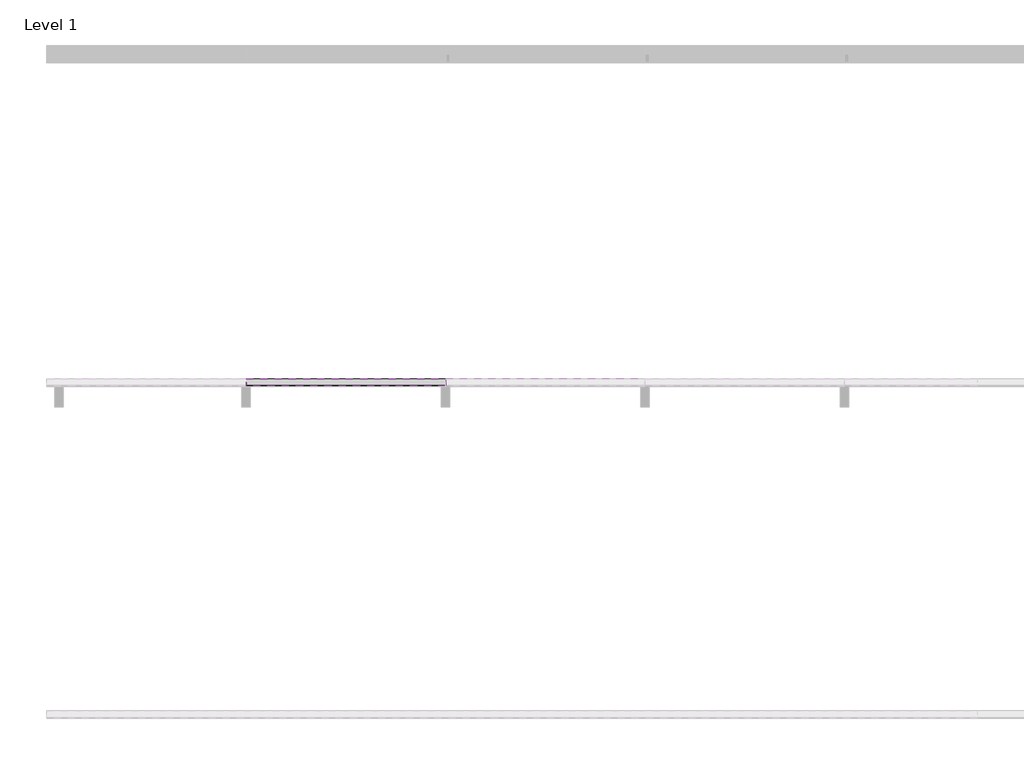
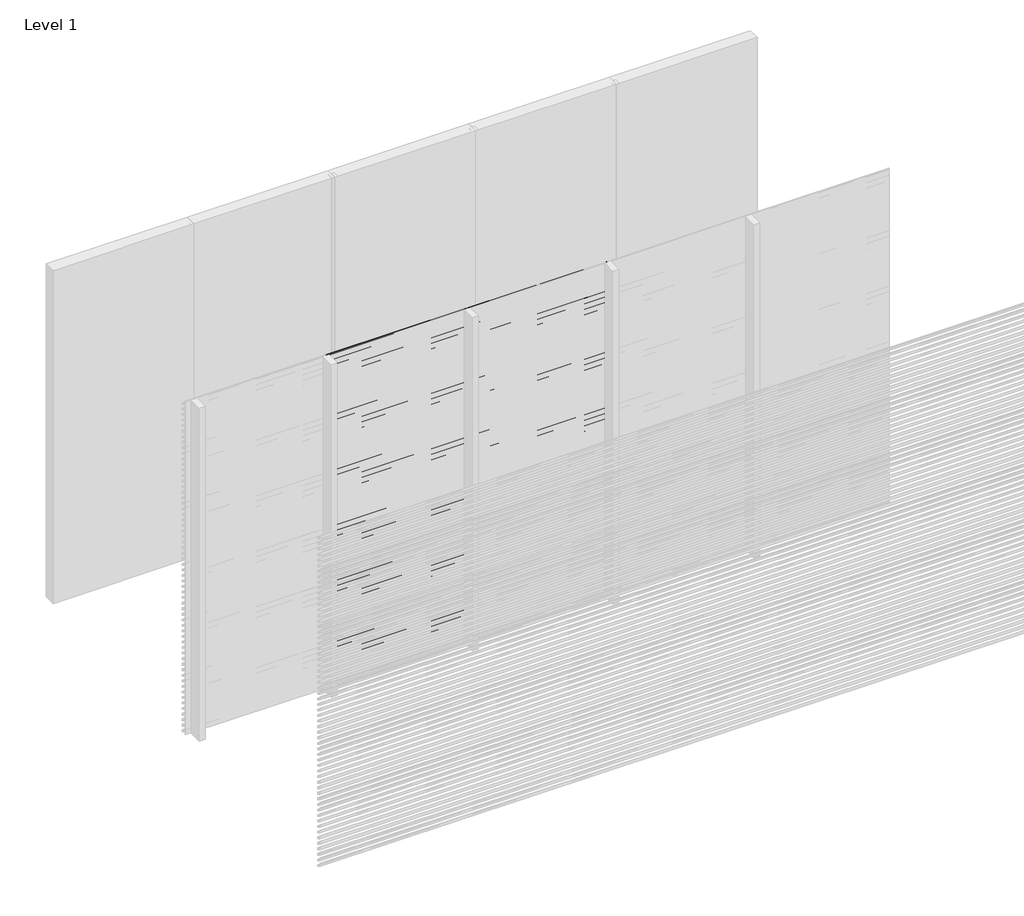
# One storey, part 3 of 16: 92 proxies.
"""IFC4 building model written with IfcOpenShell, lengths in millimetres."""

from ifc_helpers import new_model, si_unit, frame, origin, place, context, project, spatial, polyline, outline, extrude, element, save

model = new_model("IFC4")

# Units and contexts
model_context = context("Model", 3, world=origin())
ifc_project = project(units=[si_unit("LENGTHUNIT", "METRE", prefix="MILLI")], contexts=[model_context])

# Site, building, storey
site = spatial("IfcSite", under=ifc_project)
building = spatial("IfcBuilding", under=site)
storey = spatial("IfcBuildingStorey", under=building, Name="Level 1", Elevation=0.0)

# Proxies
placement = place(None, origin())
element("IfcBuildingElementProxy", 1, Name="Wall Sweeps", at=placement, inside=storey, context=model_context, shape_type="SweptSolid", body=[
    extrude(outline(polyline([(-17995.0, 3000.0), (-17995.0, 2989.6352854), (-17954.0, 2965.0), (-17954.0, 2950.0), (-17997.0, 2975.8370066), (-17997.0, 3000.0), (-17995.0, 3000.0)])), frame((2400.0000001, 0.0, 0.0), z_axis=(1.0, 0.0, 0.0), x_axis=(0.0, 1.0, 0.0)), (0.0, 0.0, 1.0), 1199.9999999),
])
element("IfcBuildingElementProxy", 2, Name="Wall Sweeps", at=placement, inside=storey, context=model_context, shape_type="SweptSolid", body=[
    extrude(outline(polyline([(-17995.0, 2950.0), (-17995.0, 2939.6352854), (-17954.0, 2915.0), (-17954.0, 2900.0), (-17997.0, 2925.8370066), (-17997.0, 2950.0), (-17995.0, 2950.0)])), frame((2400.0000001, 0.0, 0.0), z_axis=(1.0, 0.0, 0.0), x_axis=(0.0, 1.0, 0.0)), (0.0, 0.0, 1.0), 1199.9999999),
])
element("IfcBuildingElementProxy", 3, Name="Wall Sweeps", at=placement, inside=storey, context=model_context, shape_type="SweptSolid", body=[
    extrude(outline(polyline([(-17995.0, 2900.0), (-17995.0, 2889.6352854), (-17954.0, 2865.0), (-17954.0, 2850.0), (-17997.0, 2875.8370066), (-17997.0, 2900.0), (-17995.0, 2900.0)])), frame((2400.0000001, 0.0, 0.0), z_axis=(1.0, 0.0, 0.0), x_axis=(0.0, 1.0, 0.0)), (0.0, 0.0, 1.0), 1199.9999999),
])
element("IfcBuildingElementProxy", 4, Name="Wall Sweeps", at=placement, inside=storey, context=model_context, shape_type="SweptSolid", body=[
    extrude(outline(polyline([(-17995.0, 2850.0), (-17995.0, 2839.6352854), (-17954.0, 2815.0), (-17954.0, 2800.0), (-17997.0, 2825.8370066), (-17997.0, 2850.0), (-17995.0, 2850.0)])), frame((2400.0000001, 0.0, 0.0), z_axis=(1.0, 0.0, 0.0), x_axis=(0.0, 1.0, 0.0)), (0.0, 0.0, 1.0), 1199.9999999),
])
element("IfcBuildingElementProxy", 5, Name="Wall Sweeps", at=placement, inside=storey, context=model_context, shape_type="SweptSolid", body=[
    extrude(outline(polyline([(-17995.0, 2800.0), (-17995.0, 2789.6352854), (-17954.0, 2765.0), (-17954.0, 2750.0), (-17997.0, 2775.8370066), (-17997.0, 2800.0), (-17995.0, 2800.0)])), frame((2400.0000001, 0.0, 0.0), z_axis=(1.0, 0.0, 0.0), x_axis=(0.0, 1.0, 0.0)), (0.0, 0.0, 1.0), 1199.9999999),
])
element("IfcBuildingElementProxy", 6, Name="Wall Sweeps", at=placement, inside=storey, context=model_context, shape_type="SweptSolid", body=[
    extrude(outline(polyline([(-17995.0, 2750.0), (-17995.0, 2739.6352854), (-17954.0, 2715.0), (-17954.0, 2700.0), (-17997.0, 2725.8370066), (-17997.0, 2750.0), (-17995.0, 2750.0)])), frame((2400.0000001, 0.0, 0.0), z_axis=(1.0, 0.0, 0.0), x_axis=(0.0, 1.0, 0.0)), (0.0, 0.0, 1.0), 1199.9999999),
])
element("IfcBuildingElementProxy", 7, Name="Wall Sweeps", at=placement, inside=storey, context=model_context, shape_type="SweptSolid", body=[
    extrude(outline(polyline([(-17995.0, 2700.0), (-17995.0, 2689.6352854), (-17954.0, 2665.0), (-17954.0, 2650.0), (-17997.0, 2675.8370066), (-17997.0, 2700.0), (-17995.0, 2700.0)])), frame((2400.0000001, 0.0, 0.0), z_axis=(1.0, 0.0, 0.0), x_axis=(0.0, 1.0, 0.0)), (0.0, 0.0, 1.0), 1199.9999999),
])
element("IfcBuildingElementProxy", 8, Name="Wall Sweeps", at=placement, inside=storey, context=model_context, shape_type="SweptSolid", body=[
    extrude(outline(polyline([(-17995.0, 2650.0), (-17995.0, 2639.6352854), (-17954.0, 2615.0), (-17954.0, 2600.0), (-17997.0, 2625.8370066), (-17997.0, 2650.0), (-17995.0, 2650.0)])), frame((2400.0000001, 0.0, 0.0), z_axis=(1.0, 0.0, 0.0), x_axis=(0.0, 1.0, 0.0)), (0.0, 0.0, 1.0), 1199.9999999),
])
element("IfcBuildingElementProxy", 9, Name="Wall Sweeps", at=placement, inside=storey, context=model_context, shape_type="SweptSolid", body=[
    extrude(outline(polyline([(-17995.0, 2600.0), (-17995.0, 2589.6352854), (-17954.0, 2565.0), (-17954.0, 2550.0), (-17997.0, 2575.8370066), (-17997.0, 2600.0), (-17995.0, 2600.0)])), frame((2400.0000001, 0.0, 0.0), z_axis=(1.0, 0.0, 0.0), x_axis=(0.0, 1.0, 0.0)), (0.0, 0.0, 1.0), 1199.9999999),
])
element("IfcBuildingElementProxy", 10, Name="Wall Sweeps", at=placement, inside=storey, context=model_context, shape_type="SweptSolid", body=[
    extrude(outline(polyline([(-17995.0, 2550.0), (-17995.0, 2539.6352854), (-17954.0, 2515.0), (-17954.0, 2500.0), (-17997.0, 2525.8370066), (-17997.0, 2550.0), (-17995.0, 2550.0)])), frame((2400.0000001, 0.0, 0.0), z_axis=(1.0, 0.0, 0.0), x_axis=(0.0, 1.0, 0.0)), (0.0, 0.0, 1.0), 1199.9999999),
])
element("IfcBuildingElementProxy", 11, Name="Wall Sweeps", at=placement, inside=storey, context=model_context, shape_type="SweptSolid", body=[
    extrude(outline(polyline([(-17995.0, 2500.0), (-17995.0, 2489.6352854), (-17954.0, 2465.0), (-17954.0, 2450.0), (-17997.0, 2475.8370066), (-17997.0, 2500.0), (-17995.0, 2500.0)])), frame((2400.0000001, 0.0, 0.0), z_axis=(1.0, 0.0, 0.0), x_axis=(0.0, 1.0, 0.0)), (0.0, 0.0, 1.0), 1199.9999999),
])
element("IfcBuildingElementProxy", 12, Name="Wall Sweeps", at=placement, inside=storey, context=model_context, shape_type="SweptSolid", body=[
    extrude(outline(polyline([(-17995.0, 2450.0), (-17995.0, 2439.6352854), (-17954.0, 2415.0), (-17954.0, 2400.0), (-17997.0, 2425.8370066), (-17997.0, 2450.0), (-17995.0, 2450.0)])), frame((2400.0000001, 0.0, 0.0), z_axis=(1.0, 0.0, 0.0), x_axis=(0.0, 1.0, 0.0)), (0.0, 0.0, 1.0), 1199.9999999),
])
element("IfcBuildingElementProxy", 13, Name="Wall Sweeps", at=placement, inside=storey, context=model_context, shape_type="SweptSolid", body=[
    extrude(outline(polyline([(-17995.0, 2400.0), (-17995.0, 2389.6352854), (-17954.0, 2365.0), (-17954.0, 2350.0), (-17997.0, 2375.8370066), (-17997.0, 2400.0), (-17995.0, 2400.0)])), frame((2400.0000001, 0.0, 0.0), z_axis=(1.0, 0.0, 0.0), x_axis=(0.0, 1.0, 0.0)), (0.0, 0.0, 1.0), 1199.9999999),
])
element("IfcBuildingElementProxy", 14, Name="Wall Sweeps", at=placement, inside=storey, context=model_context, shape_type="SweptSolid", body=[
    extrude(outline(polyline([(-17995.0, 2350.0), (-17995.0, 2339.6352854), (-17954.0, 2315.0), (-17954.0, 2300.0), (-17997.0, 2325.8370066), (-17997.0, 2350.0), (-17995.0, 2350.0)])), frame((2400.0000001, 0.0, 0.0), z_axis=(1.0, 0.0, 0.0), x_axis=(0.0, 1.0, 0.0)), (0.0, 0.0, 1.0), 1199.9999999),
])
element("IfcBuildingElementProxy", 15, Name="Wall Sweeps", at=placement, inside=storey, context=model_context, shape_type="SweptSolid", body=[
    extrude(outline(polyline([(-17995.0, 2300.0), (-17995.0, 2289.6352854), (-17954.0, 2265.0), (-17954.0, 2250.0), (-17997.0, 2275.8370066), (-17997.0, 2300.0), (-17995.0, 2300.0)])), frame((2400.0000001, 0.0, 0.0), z_axis=(1.0, 0.0, 0.0), x_axis=(0.0, 1.0, 0.0)), (0.0, 0.0, 1.0), 1199.9999999),
])
element("IfcBuildingElementProxy", 16, Name="Wall Sweeps", at=placement, inside=storey, context=model_context, shape_type="SweptSolid", body=[
    extrude(outline(polyline([(-17995.0, 2250.0), (-17995.0, 2239.6352854), (-17954.0, 2215.0), (-17954.0, 2200.0), (-17997.0, 2225.8370066), (-17997.0, 2250.0), (-17995.0, 2250.0)])), frame((2400.0000001, 0.0, 0.0), z_axis=(1.0, 0.0, 0.0), x_axis=(0.0, 1.0, 0.0)), (0.0, 0.0, 1.0), 1199.9999999),
])
element("IfcBuildingElementProxy", 17, Name="Wall Sweeps", at=placement, inside=storey, context=model_context, shape_type="SweptSolid", body=[
    extrude(outline(polyline([(-17995.0, 2200.0), (-17995.0, 2189.6352854), (-17954.0, 2165.0), (-17954.0, 2150.0), (-17997.0, 2175.8370066), (-17997.0, 2200.0), (-17995.0, 2200.0)])), frame((2400.0000001, 0.0, 0.0), z_axis=(1.0, 0.0, 0.0), x_axis=(0.0, 1.0, 0.0)), (0.0, 0.0, 1.0), 1199.9999999),
])
element("IfcBuildingElementProxy", 18, Name="Wall Sweeps", at=placement, inside=storey, context=model_context, shape_type="SweptSolid", body=[
    extrude(outline(polyline([(-17995.0, 2150.0), (-17995.0, 2139.6352854), (-17954.0, 2115.0), (-17954.0, 2100.0), (-17997.0, 2125.8370066), (-17997.0, 2150.0), (-17995.0, 2150.0)])), frame((2400.0000001, 0.0, 0.0), z_axis=(1.0, 0.0, 0.0), x_axis=(0.0, 1.0, 0.0)), (0.0, 0.0, 1.0), 1199.9999999),
])
element("IfcBuildingElementProxy", 19, Name="Wall Sweeps", at=placement, inside=storey, context=model_context, shape_type="SweptSolid", body=[
    extrude(outline(polyline([(-17995.0, 2100.0), (-17995.0, 2089.6352854), (-17954.0, 2065.0), (-17954.0, 2050.0), (-17997.0, 2075.8370066), (-17997.0, 2100.0), (-17995.0, 2100.0)])), frame((2400.0000001, 0.0, 0.0), z_axis=(1.0, 0.0, 0.0), x_axis=(0.0, 1.0, 0.0)), (0.0, 0.0, 1.0), 1199.9999999),
])
element("IfcBuildingElementProxy", 20, Name="Wall Sweeps", at=placement, inside=storey, context=model_context, shape_type="SweptSolid", body=[
    extrude(outline(polyline([(-17995.0, 2050.0), (-17995.0, 2039.6352854), (-17954.0, 2015.0), (-17954.0, 2000.0), (-17997.0, 2025.8370066), (-17997.0, 2050.0), (-17995.0, 2050.0)])), frame((2400.0000001, 0.0, 0.0), z_axis=(1.0, 0.0, 0.0), x_axis=(0.0, 1.0, 0.0)), (0.0, 0.0, 1.0), 1199.9999999),
])
element("IfcBuildingElementProxy", 21, Name="Wall Sweeps", at=placement, inside=storey, context=model_context, shape_type="SweptSolid", body=[
    extrude(outline(polyline([(-17995.0, 2000.0), (-17995.0, 1989.6352854), (-17954.0, 1965.0), (-17954.0, 1950.0), (-17997.0, 1975.8370066), (-17997.0, 2000.0), (-17995.0, 2000.0)])), frame((2400.0000001, 0.0, 0.0), z_axis=(1.0, 0.0, 0.0), x_axis=(0.0, 1.0, 0.0)), (0.0, 0.0, 1.0), 1199.9999999),
])
element("IfcBuildingElementProxy", 22, Name="Wall Sweeps", at=placement, inside=storey, context=model_context, shape_type="SweptSolid", body=[
    extrude(outline(polyline([(-17995.0, 1950.0), (-17995.0, 1939.6352854), (-17954.0, 1915.0), (-17954.0, 1900.0), (-17997.0, 1925.8370066), (-17997.0, 1950.0), (-17995.0, 1950.0)])), frame((2400.0000001, 0.0, 0.0), z_axis=(1.0, 0.0, 0.0), x_axis=(0.0, 1.0, 0.0)), (0.0, 0.0, 1.0), 1199.9999999),
])
element("IfcBuildingElementProxy", 23, Name="Wall Sweeps", at=placement, inside=storey, context=model_context, shape_type="SweptSolid", body=[
    extrude(outline(polyline([(-17995.0, 1900.0), (-17995.0, 1889.6352854), (-17954.0, 1865.0), (-17954.0, 1850.0), (-17997.0, 1875.8370066), (-17997.0, 1900.0), (-17995.0, 1900.0)])), frame((2400.0000001, 0.0, 0.0), z_axis=(1.0, 0.0, 0.0), x_axis=(0.0, 1.0, 0.0)), (0.0, 0.0, 1.0), 1199.9999999),
])
element("IfcBuildingElementProxy", 24, Name="Wall Sweeps", at=placement, inside=storey, context=model_context, shape_type="SweptSolid", body=[
    extrude(outline(polyline([(-17995.0, 1850.0), (-17995.0, 1839.6352854), (-17954.0, 1815.0), (-17954.0, 1800.0), (-17997.0, 1825.8370066), (-17997.0, 1850.0), (-17995.0, 1850.0)])), frame((2400.0000001, 0.0, 0.0), z_axis=(1.0, 0.0, 0.0), x_axis=(0.0, 1.0, 0.0)), (0.0, 0.0, 1.0), 1199.9999999),
])
element("IfcBuildingElementProxy", 25, Name="Wall Sweeps", at=placement, inside=storey, context=model_context, shape_type="SweptSolid", body=[
    extrude(outline(polyline([(-17995.0, 1800.0), (-17995.0, 1789.6352854), (-17954.0, 1765.0), (-17954.0, 1750.0), (-17997.0, 1775.8370066), (-17997.0, 1800.0), (-17995.0, 1800.0)])), frame((2400.0000001, 0.0, 0.0), z_axis=(1.0, 0.0, 0.0), x_axis=(0.0, 1.0, 0.0)), (0.0, 0.0, 1.0), 1199.9999999),
])
element("IfcBuildingElementProxy", 26, Name="Wall Sweeps", at=placement, inside=storey, context=model_context, shape_type="SweptSolid", body=[
    extrude(outline(polyline([(-17995.0, 1750.0), (-17995.0, 1739.6352854), (-17954.0, 1715.0), (-17954.0, 1700.0), (-17997.0, 1725.8370066), (-17997.0, 1750.0), (-17995.0, 1750.0)])), frame((2400.0000001, 0.0, 0.0), z_axis=(1.0, 0.0, 0.0), x_axis=(0.0, 1.0, 0.0)), (0.0, 0.0, 1.0), 1199.9999999),
])
element("IfcBuildingElementProxy", 27, Name="Wall Sweeps", at=placement, inside=storey, context=model_context, shape_type="SweptSolid", body=[
    extrude(outline(polyline([(-17995.0, 1700.0), (-17995.0, 1689.6352854), (-17954.0, 1665.0), (-17954.0, 1650.0), (-17997.0, 1675.8370066), (-17997.0, 1700.0), (-17995.0, 1700.0)])), frame((2400.0000001, 0.0, 0.0), z_axis=(1.0, 0.0, 0.0), x_axis=(0.0, 1.0, 0.0)), (0.0, 0.0, 1.0), 1199.9999999),
])
element("IfcBuildingElementProxy", 28, Name="Wall Sweeps", at=placement, inside=storey, context=model_context, shape_type="SweptSolid", body=[
    extrude(outline(polyline([(-17995.0, 1650.0), (-17995.0, 1639.6352854), (-17954.0, 1615.0), (-17954.0, 1600.0), (-17997.0, 1625.8370066), (-17997.0, 1650.0), (-17995.0, 1650.0)])), frame((2400.0000001, 0.0, 0.0), z_axis=(1.0, 0.0, 0.0), x_axis=(0.0, 1.0, 0.0)), (0.0, 0.0, 1.0), 1199.9999999),
])
element("IfcBuildingElementProxy", 29, Name="Wall Sweeps", at=placement, inside=storey, context=model_context, shape_type="SweptSolid", body=[
    extrude(outline(polyline([(-17995.0, 1600.0), (-17995.0, 1589.6352854), (-17954.0, 1565.0), (-17954.0, 1550.0), (-17997.0, 1575.8370066), (-17997.0, 1600.0), (-17995.0, 1600.0)])), frame((2400.0000001, 0.0, 0.0), z_axis=(1.0, 0.0, 0.0), x_axis=(0.0, 1.0, 0.0)), (0.0, 0.0, 1.0), 1199.9999999),
])
element("IfcBuildingElementProxy", 30, Name="Wall Sweeps", at=placement, inside=storey, context=model_context, shape_type="SweptSolid", body=[
    extrude(outline(polyline([(-17995.0, 1550.0), (-17995.0, 1539.6352854), (-17954.0, 1515.0), (-17954.0, 1500.0), (-17997.0, 1525.8370066), (-17997.0, 1550.0), (-17995.0, 1550.0)])), frame((2400.0000001, 0.0, 0.0), z_axis=(1.0, 0.0, 0.0), x_axis=(0.0, 1.0, 0.0)), (0.0, 0.0, 1.0), 1199.9999999),
])
element("IfcBuildingElementProxy", 31, Name="Wall Sweeps", at=placement, inside=storey, context=model_context, shape_type="SweptSolid", body=[
    extrude(outline(polyline([(-17995.0, 1500.0), (-17995.0, 1489.6352854), (-17954.0, 1465.0), (-17954.0, 1450.0), (-17997.0, 1475.8370066), (-17997.0, 1500.0), (-17995.0, 1500.0)])), frame((2400.0000001, 0.0, 0.0), z_axis=(1.0, 0.0, 0.0), x_axis=(0.0, 1.0, 0.0)), (0.0, 0.0, 1.0), 1199.9999999),
])
element("IfcBuildingElementProxy", 32, Name="Wall Sweeps", at=placement, inside=storey, context=model_context, shape_type="SweptSolid", body=[
    extrude(outline(polyline([(-17995.0, 1450.0), (-17995.0, 1439.6352854), (-17954.0, 1415.0), (-17954.0, 1400.0), (-17997.0, 1425.8370066), (-17997.0, 1450.0), (-17995.0, 1450.0)])), frame((2400.0000001, 0.0, 0.0), z_axis=(1.0, 0.0, 0.0), x_axis=(0.0, 1.0, 0.0)), (0.0, 0.0, 1.0), 1199.9999999),
])
element("IfcBuildingElementProxy", 33, Name="Wall Sweeps", at=placement, inside=storey, context=model_context, shape_type="SweptSolid", body=[
    extrude(outline(polyline([(-17995.0, 3000.0), (-17995.0, 2989.6352854), (-17954.0, 2965.0), (-17954.0, 2950.0), (-17997.0, 2975.8370066), (-17997.0, 3000.0), (-17995.0, 3000.0)])), frame((1200.0000002, 0.0, 0.0), z_axis=(1.0, 0.0, 0.0), x_axis=(0.0, 1.0, 0.0)), (0.0, 0.0, 1.0), 1199.9999999),
])
element("IfcBuildingElementProxy", 34, Name="Wall Sweeps", at=placement, inside=storey, context=model_context, shape_type="SweptSolid", body=[
    extrude(outline(polyline([(-17995.0, 2950.0), (-17995.0, 2939.6352854), (-17954.0, 2915.0), (-17954.0, 2900.0), (-17997.0, 2925.8370066), (-17997.0, 2950.0), (-17995.0, 2950.0)])), frame((1200.0000002, 0.0, 0.0), z_axis=(1.0, 0.0, 0.0), x_axis=(0.0, 1.0, 0.0)), (0.0, 0.0, 1.0), 1199.9999999),
])
element("IfcBuildingElementProxy", 35, Name="Wall Sweeps", at=placement, inside=storey, context=model_context, shape_type="SweptSolid", body=[
    extrude(outline(polyline([(-17995.0, 2900.0), (-17995.0, 2889.6352854), (-17954.0, 2865.0), (-17954.0, 2850.0), (-17997.0, 2875.8370066), (-17997.0, 2900.0), (-17995.0, 2900.0)])), frame((1200.0000002, 0.0, 0.0), z_axis=(1.0, 0.0, 0.0), x_axis=(0.0, 1.0, 0.0)), (0.0, 0.0, 1.0), 1199.9999999),
])
element("IfcBuildingElementProxy", 36, Name="Wall Sweeps", at=placement, inside=storey, context=model_context, shape_type="SweptSolid", body=[
    extrude(outline(polyline([(-17995.0, 2850.0), (-17995.0, 2839.6352854), (-17954.0, 2815.0), (-17954.0, 2800.0), (-17997.0, 2825.8370066), (-17997.0, 2850.0), (-17995.0, 2850.0)])), frame((1200.0000002, 0.0, 0.0), z_axis=(1.0, 0.0, 0.0), x_axis=(0.0, 1.0, 0.0)), (0.0, 0.0, 1.0), 1199.9999999),
])
element("IfcBuildingElementProxy", 37, Name="Wall Sweeps", at=placement, inside=storey, context=model_context, shape_type="SweptSolid", body=[
    extrude(outline(polyline([(-17995.0, 2800.0), (-17995.0, 2789.6352854), (-17954.0, 2765.0), (-17954.0, 2750.0), (-17997.0, 2775.8370066), (-17997.0, 2800.0), (-17995.0, 2800.0)])), frame((1200.0000002, 0.0, 0.0), z_axis=(1.0, 0.0, 0.0), x_axis=(0.0, 1.0, 0.0)), (0.0, 0.0, 1.0), 1199.9999999),
])
element("IfcBuildingElementProxy", 38, Name="Wall Sweeps", at=placement, inside=storey, context=model_context, shape_type="SweptSolid", body=[
    extrude(outline(polyline([(-17995.0, 2750.0), (-17995.0, 2739.6352854), (-17954.0, 2715.0), (-17954.0, 2700.0), (-17997.0, 2725.8370066), (-17997.0, 2750.0), (-17995.0, 2750.0)])), frame((1200.0000002, 0.0, 0.0), z_axis=(1.0, 0.0, 0.0), x_axis=(0.0, 1.0, 0.0)), (0.0, 0.0, 1.0), 1199.9999999),
])
element("IfcBuildingElementProxy", 39, Name="Wall Sweeps", at=placement, inside=storey, context=model_context, shape_type="SweptSolid", body=[
    extrude(outline(polyline([(-17995.0, 2700.0), (-17995.0, 2689.6352854), (-17954.0, 2665.0), (-17954.0, 2650.0), (-17997.0, 2675.8370066), (-17997.0, 2700.0), (-17995.0, 2700.0)])), frame((1200.0000002, 0.0, 0.0), z_axis=(1.0, 0.0, 0.0), x_axis=(0.0, 1.0, 0.0)), (0.0, 0.0, 1.0), 1199.9999999),
])
element("IfcBuildingElementProxy", 40, Name="Wall Sweeps", at=placement, inside=storey, context=model_context, shape_type="SweptSolid", body=[
    extrude(outline(polyline([(-17995.0, 2650.0), (-17995.0, 2639.6352854), (-17954.0, 2615.0), (-17954.0, 2600.0), (-17997.0, 2625.8370066), (-17997.0, 2650.0), (-17995.0, 2650.0)])), frame((1200.0000002, 0.0, 0.0), z_axis=(1.0, 0.0, 0.0), x_axis=(0.0, 1.0, 0.0)), (0.0, 0.0, 1.0), 1199.9999999),
])
element("IfcBuildingElementProxy", 41, Name="Wall Sweeps", at=placement, inside=storey, context=model_context, shape_type="SweptSolid", body=[
    extrude(outline(polyline([(-17995.0, 2600.0), (-17995.0, 2589.6352854), (-17954.0, 2565.0), (-17954.0, 2550.0), (-17997.0, 2575.8370066), (-17997.0, 2600.0), (-17995.0, 2600.0)])), frame((1200.0000002, 0.0, 0.0), z_axis=(1.0, 0.0, 0.0), x_axis=(0.0, 1.0, 0.0)), (0.0, 0.0, 1.0), 1199.9999999),
])
element("IfcBuildingElementProxy", 42, Name="Wall Sweeps", at=placement, inside=storey, context=model_context, shape_type="SweptSolid", body=[
    extrude(outline(polyline([(-17995.0, 2550.0), (-17995.0, 2539.6352854), (-17954.0, 2515.0), (-17954.0, 2500.0), (-17997.0, 2525.8370066), (-17997.0, 2550.0), (-17995.0, 2550.0)])), frame((1200.0000002, 0.0, 0.0), z_axis=(1.0, 0.0, 0.0), x_axis=(0.0, 1.0, 0.0)), (0.0, 0.0, 1.0), 1199.9999999),
])
element("IfcBuildingElementProxy", 43, Name="Wall Sweeps", at=placement, inside=storey, context=model_context, shape_type="SweptSolid", body=[
    extrude(outline(polyline([(-17995.0, 2500.0), (-17995.0, 2489.6352854), (-17954.0, 2465.0), (-17954.0, 2450.0), (-17997.0, 2475.8370066), (-17997.0, 2500.0), (-17995.0, 2500.0)])), frame((1200.0000002, 0.0, 0.0), z_axis=(1.0, 0.0, 0.0), x_axis=(0.0, 1.0, 0.0)), (0.0, 0.0, 1.0), 1199.9999999),
])
element("IfcBuildingElementProxy", 44, Name="Wall Sweeps", at=placement, inside=storey, context=model_context, shape_type="SweptSolid", body=[
    extrude(outline(polyline([(-17995.0, 2450.0), (-17995.0, 2439.6352854), (-17954.0, 2415.0), (-17954.0, 2400.0), (-17997.0, 2425.8370066), (-17997.0, 2450.0), (-17995.0, 2450.0)])), frame((1200.0000002, 0.0, 0.0), z_axis=(1.0, 0.0, 0.0), x_axis=(0.0, 1.0, 0.0)), (0.0, 0.0, 1.0), 1199.9999999),
])
element("IfcBuildingElementProxy", 45, Name="Wall Sweeps", at=placement, inside=storey, context=model_context, shape_type="SweptSolid", body=[
    extrude(outline(polyline([(-17995.0, 2400.0), (-17995.0, 2389.6352854), (-17954.0, 2365.0), (-17954.0, 2350.0), (-17997.0, 2375.8370066), (-17997.0, 2400.0), (-17995.0, 2400.0)])), frame((1200.0000002, 0.0, 0.0), z_axis=(1.0, 0.0, 0.0), x_axis=(0.0, 1.0, 0.0)), (0.0, 0.0, 1.0), 1199.9999999),
])
element("IfcBuildingElementProxy", 46, Name="Wall Sweeps", at=placement, inside=storey, context=model_context, shape_type="SweptSolid", body=[
    extrude(outline(polyline([(-17995.0, 2350.0), (-17995.0, 2339.6352854), (-17954.0, 2315.0), (-17954.0, 2300.0), (-17997.0, 2325.8370066), (-17997.0, 2350.0), (-17995.0, 2350.0)])), frame((1200.0000002, 0.0, 0.0), z_axis=(1.0, 0.0, 0.0), x_axis=(0.0, 1.0, 0.0)), (0.0, 0.0, 1.0), 1199.9999999),
])
element("IfcBuildingElementProxy", 47, Name="Wall Sweeps", at=placement, inside=storey, context=model_context, shape_type="SweptSolid", body=[
    extrude(outline(polyline([(-17995.0, 2300.0), (-17995.0, 2289.6352854), (-17954.0, 2265.0), (-17954.0, 2250.0), (-17997.0, 2275.8370066), (-17997.0, 2300.0), (-17995.0, 2300.0)])), frame((1200.0000002, 0.0, 0.0), z_axis=(1.0, 0.0, 0.0), x_axis=(0.0, 1.0, 0.0)), (0.0, 0.0, 1.0), 1199.9999999),
])
element("IfcBuildingElementProxy", 48, Name="Wall Sweeps", at=placement, inside=storey, context=model_context, shape_type="SweptSolid", body=[
    extrude(outline(polyline([(-17995.0, 2250.0), (-17995.0, 2239.6352854), (-17954.0, 2215.0), (-17954.0, 2200.0), (-17997.0, 2225.8370066), (-17997.0, 2250.0), (-17995.0, 2250.0)])), frame((1200.0000002, 0.0, 0.0), z_axis=(1.0, 0.0, 0.0), x_axis=(0.0, 1.0, 0.0)), (0.0, 0.0, 1.0), 1199.9999999),
])
element("IfcBuildingElementProxy", 49, Name="Wall Sweeps", at=placement, inside=storey, context=model_context, shape_type="SweptSolid", body=[
    extrude(outline(polyline([(-17995.0, 2200.0), (-17995.0, 2189.6352854), (-17954.0, 2165.0), (-17954.0, 2150.0), (-17997.0, 2175.8370066), (-17997.0, 2200.0), (-17995.0, 2200.0)])), frame((1200.0000002, 0.0, 0.0), z_axis=(1.0, 0.0, 0.0), x_axis=(0.0, 1.0, 0.0)), (0.0, 0.0, 1.0), 1199.9999999),
])
element("IfcBuildingElementProxy", 50, Name="Wall Sweeps", at=placement, inside=storey, context=model_context, shape_type="SweptSolid", body=[
    extrude(outline(polyline([(-17995.0, 2150.0), (-17995.0, 2139.6352854), (-17954.0, 2115.0), (-17954.0, 2100.0), (-17997.0, 2125.8370066), (-17997.0, 2150.0), (-17995.0, 2150.0)])), frame((1200.0000002, 0.0, 0.0), z_axis=(1.0, 0.0, 0.0), x_axis=(0.0, 1.0, 0.0)), (0.0, 0.0, 1.0), 1199.9999999),
])
element("IfcBuildingElementProxy", 51, Name="Wall Sweeps", at=placement, inside=storey, context=model_context, shape_type="SweptSolid", body=[
    extrude(outline(polyline([(-17995.0, 2100.0), (-17995.0, 2089.6352854), (-17954.0, 2065.0), (-17954.0, 2050.0), (-17997.0, 2075.8370066), (-17997.0, 2100.0), (-17995.0, 2100.0)])), frame((1200.0000002, 0.0, 0.0), z_axis=(1.0, 0.0, 0.0), x_axis=(0.0, 1.0, 0.0)), (0.0, 0.0, 1.0), 1199.9999999),
])
element("IfcBuildingElementProxy", 52, Name="Wall Sweeps", at=placement, inside=storey, context=model_context, shape_type="SweptSolid", body=[
    extrude(outline(polyline([(-17995.0, 2050.0), (-17995.0, 2039.6352854), (-17954.0, 2015.0), (-17954.0, 2000.0), (-17997.0, 2025.8370066), (-17997.0, 2050.0), (-17995.0, 2050.0)])), frame((1200.0000002, 0.0, 0.0), z_axis=(1.0, 0.0, 0.0), x_axis=(0.0, 1.0, 0.0)), (0.0, 0.0, 1.0), 1199.9999999),
])
element("IfcBuildingElementProxy", 53, Name="Wall Sweeps", at=placement, inside=storey, context=model_context, shape_type="SweptSolid", body=[
    extrude(outline(polyline([(-17995.0, 2000.0), (-17995.0, 1989.6352854), (-17954.0, 1965.0), (-17954.0, 1950.0), (-17997.0, 1975.8370066), (-17997.0, 2000.0), (-17995.0, 2000.0)])), frame((1200.0000002, 0.0, 0.0), z_axis=(1.0, 0.0, 0.0), x_axis=(0.0, 1.0, 0.0)), (0.0, 0.0, 1.0), 1199.9999999),
])
element("IfcBuildingElementProxy", 54, Name="Wall Sweeps", at=placement, inside=storey, context=model_context, shape_type="SweptSolid", body=[
    extrude(outline(polyline([(-17995.0, 1950.0), (-17995.0, 1939.6352854), (-17954.0, 1915.0), (-17954.0, 1900.0), (-17997.0, 1925.8370066), (-17997.0, 1950.0), (-17995.0, 1950.0)])), frame((1200.0000002, 0.0, 0.0), z_axis=(1.0, 0.0, 0.0), x_axis=(0.0, 1.0, 0.0)), (0.0, 0.0, 1.0), 1199.9999999),
])
element("IfcBuildingElementProxy", 55, Name="Wall Sweeps", at=placement, inside=storey, context=model_context, shape_type="SweptSolid", body=[
    extrude(outline(polyline([(-17995.0, 1900.0), (-17995.0, 1889.6352854), (-17954.0, 1865.0), (-17954.0, 1850.0), (-17997.0, 1875.8370066), (-17997.0, 1900.0), (-17995.0, 1900.0)])), frame((1200.0000002, 0.0, 0.0), z_axis=(1.0, 0.0, 0.0), x_axis=(0.0, 1.0, 0.0)), (0.0, 0.0, 1.0), 1199.9999999),
])
element("IfcBuildingElementProxy", 56, Name="Wall Sweeps", at=placement, inside=storey, context=model_context, shape_type="SweptSolid", body=[
    extrude(outline(polyline([(-17995.0, 1850.0), (-17995.0, 1839.6352854), (-17954.0, 1815.0), (-17954.0, 1800.0), (-17997.0, 1825.8370066), (-17997.0, 1850.0), (-17995.0, 1850.0)])), frame((1200.0000002, 0.0, 0.0), z_axis=(1.0, 0.0, 0.0), x_axis=(0.0, 1.0, 0.0)), (0.0, 0.0, 1.0), 1199.9999999),
])
element("IfcBuildingElementProxy", 57, Name="Wall Sweeps", at=placement, inside=storey, context=model_context, shape_type="SweptSolid", body=[
    extrude(outline(polyline([(-17995.0, 1800.0), (-17995.0, 1789.6352854), (-17954.0, 1765.0), (-17954.0, 1750.0), (-17997.0, 1775.8370066), (-17997.0, 1800.0), (-17995.0, 1800.0)])), frame((1200.0000002, 0.0, 0.0), z_axis=(1.0, 0.0, 0.0), x_axis=(0.0, 1.0, 0.0)), (0.0, 0.0, 1.0), 1199.9999999),
])
element("IfcBuildingElementProxy", 58, Name="Wall Sweeps", at=placement, inside=storey, context=model_context, shape_type="SweptSolid", body=[
    extrude(outline(polyline([(-17995.0, 1750.0), (-17995.0, 1739.6352854), (-17954.0, 1715.0), (-17954.0, 1700.0), (-17997.0, 1725.8370066), (-17997.0, 1750.0), (-17995.0, 1750.0)])), frame((1200.0000002, 0.0, 0.0), z_axis=(1.0, 0.0, 0.0), x_axis=(0.0, 1.0, 0.0)), (0.0, 0.0, 1.0), 1199.9999999),
])
element("IfcBuildingElementProxy", 59, Name="Wall Sweeps", at=placement, inside=storey, context=model_context, shape_type="SweptSolid", body=[
    extrude(outline(polyline([(-17995.0, 1700.0), (-17995.0, 1689.6352854), (-17954.0, 1665.0), (-17954.0, 1650.0), (-17997.0, 1675.8370066), (-17997.0, 1700.0), (-17995.0, 1700.0)])), frame((1200.0000002, 0.0, 0.0), z_axis=(1.0, 0.0, 0.0), x_axis=(0.0, 1.0, 0.0)), (0.0, 0.0, 1.0), 1199.9999999),
])
element("IfcBuildingElementProxy", 60, Name="Wall Sweeps", at=placement, inside=storey, context=model_context, shape_type="SweptSolid", body=[
    extrude(outline(polyline([(-17995.0, 1650.0), (-17995.0, 1639.6352854), (-17954.0, 1615.0), (-17954.0, 1600.0), (-17997.0, 1625.8370066), (-17997.0, 1650.0), (-17995.0, 1650.0)])), frame((1200.0000002, 0.0, 0.0), z_axis=(1.0, 0.0, 0.0), x_axis=(0.0, 1.0, 0.0)), (0.0, 0.0, 1.0), 1199.9999999),
])
element("IfcBuildingElementProxy", 61, Name="Wall Sweeps", at=placement, inside=storey, context=model_context, shape_type="SweptSolid", body=[
    extrude(outline(polyline([(-17995.0, 1600.0), (-17995.0, 1589.6352854), (-17954.0, 1565.0), (-17954.0, 1550.0), (-17997.0, 1575.8370066), (-17997.0, 1600.0), (-17995.0, 1600.0)])), frame((1200.0000002, 0.0, 0.0), z_axis=(1.0, 0.0, 0.0), x_axis=(0.0, 1.0, 0.0)), (0.0, 0.0, 1.0), 1199.9999999),
])
element("IfcBuildingElementProxy", 62, Name="Wall Sweeps", at=placement, inside=storey, context=model_context, shape_type="SweptSolid", body=[
    extrude(outline(polyline([(-17995.0, 1550.0), (-17995.0, 1539.6352854), (-17954.0, 1515.0), (-17954.0, 1500.0), (-17997.0, 1525.8370066), (-17997.0, 1550.0), (-17995.0, 1550.0)])), frame((1200.0000002, 0.0, 0.0), z_axis=(1.0, 0.0, 0.0), x_axis=(0.0, 1.0, 0.0)), (0.0, 0.0, 1.0), 1199.9999999),
])
element("IfcBuildingElementProxy", 63, Name="Wall Sweeps", at=placement, inside=storey, context=model_context, shape_type="SweptSolid", body=[
    extrude(outline(polyline([(-17995.0, 1500.0), (-17995.0, 1489.6352854), (-17954.0, 1465.0), (-17954.0, 1450.0), (-17997.0, 1475.8370066), (-17997.0, 1500.0), (-17995.0, 1500.0)])), frame((1200.0000002, 0.0, 0.0), z_axis=(1.0, 0.0, 0.0), x_axis=(0.0, 1.0, 0.0)), (0.0, 0.0, 1.0), 1199.9999999),
])
element("IfcBuildingElementProxy", 64, Name="Wall Sweeps", at=placement, inside=storey, context=model_context, shape_type="SweptSolid", body=[
    extrude(outline(polyline([(-17995.0, 1450.0), (-17995.0, 1439.6352854), (-17954.0, 1415.0), (-17954.0, 1400.0), (-17997.0, 1425.8370066), (-17997.0, 1450.0), (-17995.0, 1450.0)])), frame((1200.0000002, 0.0, 0.0), z_axis=(1.0, 0.0, 0.0), x_axis=(0.0, 1.0, 0.0)), (0.0, 0.0, 1.0), 1199.9999999),
])
element("IfcBuildingElementProxy", 65, Name="Wall Sweeps", at=placement, inside=storey, context=model_context, shape_type="SweptSolid", body=[
    extrude(outline(polyline([(-17995.0, 1400.0), (-17995.0, 1389.6352854), (-17954.0, 1365.0), (-17954.0, 1350.0), (-17997.0, 1375.8370066), (-17997.0, 1400.0), (-17995.0, 1400.0)])), frame((1200.0000002, 0.0, 0.0), z_axis=(1.0, 0.0, 0.0), x_axis=(0.0, 1.0, 0.0)), (0.0, 0.0, 1.0), 1199.9999999),
])
element("IfcBuildingElementProxy", 66, Name="Wall Sweeps", at=placement, inside=storey, context=model_context, shape_type="SweptSolid", body=[
    extrude(outline(polyline([(-17995.0, 1350.0), (-17995.0, 1339.6352854), (-17954.0, 1315.0), (-17954.0, 1300.0), (-17997.0, 1325.8370066), (-17997.0, 1350.0), (-17995.0, 1350.0)])), frame((1200.0000002, 0.0, 0.0), z_axis=(1.0, 0.0, 0.0), x_axis=(0.0, 1.0, 0.0)), (0.0, 0.0, 1.0), 1199.9999999),
])
element("IfcBuildingElementProxy", 67, Name="Wall Sweeps", at=placement, inside=storey, context=model_context, shape_type="SweptSolid", body=[
    extrude(outline(polyline([(-17995.0, 1300.0), (-17995.0, 1289.6352854), (-17954.0, 1265.0), (-17954.0, 1250.0), (-17997.0, 1275.8370066), (-17997.0, 1300.0), (-17995.0, 1300.0)])), frame((1200.0000002, 0.0, 0.0), z_axis=(1.0, 0.0, 0.0), x_axis=(0.0, 1.0, 0.0)), (0.0, 0.0, 1.0), 1199.9999999),
])
element("IfcBuildingElementProxy", 68, Name="Wall Sweeps", at=placement, inside=storey, context=model_context, shape_type="SweptSolid", body=[
    extrude(outline(polyline([(-17995.0, 1250.0), (-17995.0, 1239.6352854), (-17954.0, 1215.0), (-17954.0, 1200.0), (-17997.0, 1225.8370066), (-17997.0, 1250.0), (-17995.0, 1250.0)])), frame((1200.0000002, 0.0, 0.0), z_axis=(1.0, 0.0, 0.0), x_axis=(0.0, 1.0, 0.0)), (0.0, 0.0, 1.0), 1199.9999999),
])
element("IfcBuildingElementProxy", 69, Name="Wall Sweeps", at=placement, inside=storey, context=model_context, shape_type="SweptSolid", body=[
    extrude(outline(polyline([(-17995.0, 1200.0), (-17995.0, 1189.6352854), (-17954.0, 1165.0), (-17954.0, 1150.0), (-17997.0, 1175.8370066), (-17997.0, 1200.0), (-17995.0, 1200.0)])), frame((1200.0000002, 0.0, 0.0), z_axis=(1.0, 0.0, 0.0), x_axis=(0.0, 1.0, 0.0)), (0.0, 0.0, 1.0), 1199.9999999),
])
element("IfcBuildingElementProxy", 70, Name="Wall Sweeps", at=placement, inside=storey, context=model_context, shape_type="SweptSolid", body=[
    extrude(outline(polyline([(-17995.0, 1150.0), (-17995.0, 1139.6352854), (-17954.0, 1115.0), (-17954.0, 1100.0), (-17997.0, 1125.8370066), (-17997.0, 1150.0), (-17995.0, 1150.0)])), frame((1200.0000002, 0.0, 0.0), z_axis=(1.0, 0.0, 0.0), x_axis=(0.0, 1.0, 0.0)), (0.0, 0.0, 1.0), 1199.9999999),
])
element("IfcBuildingElementProxy", 71, Name="Wall Sweeps", at=placement, inside=storey, context=model_context, shape_type="SweptSolid", body=[
    extrude(outline(polyline([(-17995.0, 1100.0), (-17995.0, 1089.6352854), (-17954.0, 1065.0), (-17954.0, 1050.0), (-17997.0, 1075.8370066), (-17997.0, 1100.0), (-17995.0, 1100.0)])), frame((1200.0000002, 0.0, 0.0), z_axis=(1.0, 0.0, 0.0), x_axis=(0.0, 1.0, 0.0)), (0.0, 0.0, 1.0), 1199.9999999),
])
element("IfcBuildingElementProxy", 72, Name="Wall Sweeps", at=placement, inside=storey, context=model_context, shape_type="SweptSolid", body=[
    extrude(outline(polyline([(-17995.0, 1050.0), (-17995.0, 1039.6352854), (-17954.0, 1015.0), (-17954.0, 1000.0), (-17997.0, 1025.8370066), (-17997.0, 1050.0), (-17995.0, 1050.0)])), frame((1200.0000002, 0.0, 0.0), z_axis=(1.0, 0.0, 0.0), x_axis=(0.0, 1.0, 0.0)), (0.0, 0.0, 1.0), 1199.9999999),
])
element("IfcBuildingElementProxy", 73, Name="Wall Sweeps", at=placement, inside=storey, context=model_context, shape_type="SweptSolid", body=[
    extrude(outline(polyline([(-17995.0, 1000.0), (-17995.0, 989.6352854), (-17954.0, 965.0), (-17954.0, 950.0), (-17997.0, 975.8370066), (-17997.0, 1000.0), (-17995.0, 1000.0)])), frame((1200.0000002, 0.0, 0.0), z_axis=(1.0, 0.0, 0.0), x_axis=(0.0, 1.0, 0.0)), (0.0, 0.0, 1.0), 1199.9999999),
])
element("IfcBuildingElementProxy", 74, Name="Wall Sweeps", at=placement, inside=storey, context=model_context, shape_type="SweptSolid", body=[
    extrude(outline(polyline([(-17995.0, 950.0), (-17995.0, 939.6352854), (-17954.0, 915.0), (-17954.0, 900.0), (-17997.0, 925.8370066), (-17997.0, 950.0), (-17995.0, 950.0)])), frame((1200.0000002, 0.0, 0.0), z_axis=(1.0, 0.0, 0.0), x_axis=(0.0, 1.0, 0.0)), (0.0, 0.0, 1.0), 1199.9999999),
])
element("IfcBuildingElementProxy", 75, Name="Wall Sweeps", at=placement, inside=storey, context=model_context, shape_type="SweptSolid", body=[
    extrude(outline(polyline([(-17995.0, 900.0), (-17995.0, 889.6352854), (-17954.0, 865.0), (-17954.0, 850.0), (-17997.0, 875.8370066), (-17997.0, 900.0), (-17995.0, 900.0)])), frame((1200.0000002, 0.0, 0.0), z_axis=(1.0, 0.0, 0.0), x_axis=(0.0, 1.0, 0.0)), (0.0, 0.0, 1.0), 1199.9999999),
])
element("IfcBuildingElementProxy", 76, Name="Wall Sweeps", at=placement, inside=storey, context=model_context, shape_type="SweptSolid", body=[
    extrude(outline(polyline([(-17995.0, 850.0), (-17995.0, 839.6352854), (-17954.0, 815.0), (-17954.0, 800.0), (-17997.0, 825.8370066), (-17997.0, 850.0), (-17995.0, 850.0)])), frame((1200.0000002, 0.0, 0.0), z_axis=(1.0, 0.0, 0.0), x_axis=(0.0, 1.0, 0.0)), (0.0, 0.0, 1.0), 1199.9999999),
])
element("IfcBuildingElementProxy", 77, Name="Wall Sweeps", at=placement, inside=storey, context=model_context, shape_type="SweptSolid", body=[
    extrude(outline(polyline([(-17995.0, 800.0), (-17995.0, 789.6352854), (-17954.0, 765.0), (-17954.0, 750.0), (-17997.0, 775.8370066), (-17997.0, 800.0), (-17995.0, 800.0)])), frame((1200.0000002, 0.0, 0.0), z_axis=(1.0, 0.0, 0.0), x_axis=(0.0, 1.0, 0.0)), (0.0, 0.0, 1.0), 1199.9999999),
])
element("IfcBuildingElementProxy", 78, Name="Wall Sweeps", at=placement, inside=storey, context=model_context, shape_type="SweptSolid", body=[
    extrude(outline(polyline([(-17995.0, 750.0), (-17995.0, 739.6352854), (-17954.0, 715.0), (-17954.0, 700.0), (-17997.0, 725.8370066), (-17997.0, 750.0), (-17995.0, 750.0)])), frame((1200.0000002, 0.0, 0.0), z_axis=(1.0, 0.0, 0.0), x_axis=(0.0, 1.0, 0.0)), (0.0, 0.0, 1.0), 1199.9999999),
])
element("IfcBuildingElementProxy", 79, Name="Wall Sweeps", at=placement, inside=storey, context=model_context, shape_type="SweptSolid", body=[
    extrude(outline(polyline([(-17995.0, 700.0), (-17995.0, 689.6352854), (-17954.0, 665.0), (-17954.0, 650.0), (-17997.0, 675.8370066), (-17997.0, 700.0), (-17995.0, 700.0)])), frame((1200.0000002, 0.0, 0.0), z_axis=(1.0, 0.0, 0.0), x_axis=(0.0, 1.0, 0.0)), (0.0, 0.0, 1.0), 1199.9999999),
])
element("IfcBuildingElementProxy", 80, Name="Wall Sweeps", at=placement, inside=storey, context=model_context, shape_type="SweptSolid", body=[
    extrude(outline(polyline([(-17995.0, 650.0), (-17995.0, 639.6352854), (-17954.0, 615.0), (-17954.0, 600.0), (-17997.0, 625.8370066), (-17997.0, 650.0), (-17995.0, 650.0)])), frame((1200.0000002, 0.0, 0.0), z_axis=(1.0, 0.0, 0.0), x_axis=(0.0, 1.0, 0.0)), (0.0, 0.0, 1.0), 1199.9999999),
])
element("IfcBuildingElementProxy", 81, Name="Wall Sweeps", at=placement, inside=storey, context=model_context, shape_type="SweptSolid", body=[
    extrude(outline(polyline([(-17995.0, 600.0), (-17995.0, 589.6352854), (-17954.0, 565.0), (-17954.0, 550.0), (-17997.0, 575.8370066), (-17997.0, 600.0), (-17995.0, 600.0)])), frame((1200.0000002, 0.0, 0.0), z_axis=(1.0, 0.0, 0.0), x_axis=(0.0, 1.0, 0.0)), (0.0, 0.0, 1.0), 1199.9999999),
])
element("IfcBuildingElementProxy", 82, Name="Wall Sweeps", at=placement, inside=storey, context=model_context, shape_type="SweptSolid", body=[
    extrude(outline(polyline([(-17995.0, 550.0), (-17995.0, 539.6352854), (-17954.0, 515.0), (-17954.0, 500.0), (-17997.0, 525.8370066), (-17997.0, 550.0), (-17995.0, 550.0)])), frame((1200.0000002, 0.0, 0.0), z_axis=(1.0, 0.0, 0.0), x_axis=(0.0, 1.0, 0.0)), (0.0, 0.0, 1.0), 1199.9999999),
])
element("IfcBuildingElementProxy", 83, Name="Wall Sweeps", at=placement, inside=storey, context=model_context, shape_type="SweptSolid", body=[
    extrude(outline(polyline([(-17995.0, 500.0), (-17995.0, 489.6352854), (-17954.0, 465.0), (-17954.0, 450.0), (-17997.0, 475.8370066), (-17997.0, 500.0), (-17995.0, 500.0)])), frame((1200.0000002, 0.0, 0.0), z_axis=(1.0, 0.0, 0.0), x_axis=(0.0, 1.0, 0.0)), (0.0, 0.0, 1.0), 1199.9999999),
])
element("IfcBuildingElementProxy", 84, Name="Wall Sweeps", at=placement, inside=storey, context=model_context, shape_type="SweptSolid", body=[
    extrude(outline(polyline([(-17995.0, 450.0), (-17995.0, 439.6352854), (-17954.0, 415.0), (-17954.0, 400.0), (-17997.0, 425.8370066), (-17997.0, 450.0), (-17995.0, 450.0)])), frame((1200.0000002, 0.0, 0.0), z_axis=(1.0, 0.0, 0.0), x_axis=(0.0, 1.0, 0.0)), (0.0, 0.0, 1.0), 1199.9999999),
])
element("IfcBuildingElementProxy", 85, Name="Wall Sweeps", at=placement, inside=storey, context=model_context, shape_type="SweptSolid", body=[
    extrude(outline(polyline([(-17995.0, 400.0), (-17995.0, 389.6352854), (-17954.0, 365.0), (-17954.0, 350.0), (-17997.0, 375.8370066), (-17997.0, 400.0), (-17995.0, 400.0)])), frame((1200.0000002, 0.0, 0.0), z_axis=(1.0, 0.0, 0.0), x_axis=(0.0, 1.0, 0.0)), (0.0, 0.0, 1.0), 1199.9999999),
])
element("IfcBuildingElementProxy", 86, Name="Wall Sweeps", at=placement, inside=storey, context=model_context, shape_type="SweptSolid", body=[
    extrude(outline(polyline([(-17995.0, 350.0), (-17995.0, 339.6352854), (-17954.0, 315.0), (-17954.0, 300.0), (-17997.0, 325.8370066), (-17997.0, 350.0), (-17995.0, 350.0)])), frame((1200.0000002, 0.0, 0.0), z_axis=(1.0, 0.0, 0.0), x_axis=(0.0, 1.0, 0.0)), (0.0, 0.0, 1.0), 1199.9999999),
])
element("IfcBuildingElementProxy", 87, Name="Wall Sweeps", at=placement, inside=storey, context=model_context, shape_type="SweptSolid", body=[
    extrude(outline(polyline([(-17995.0, 300.0), (-17995.0, 289.6352854), (-17954.0, 265.0), (-17954.0, 250.0), (-17997.0, 275.8370066), (-17997.0, 300.0), (-17995.0, 300.0)])), frame((1200.0000002, 0.0, 0.0), z_axis=(1.0, 0.0, 0.0), x_axis=(0.0, 1.0, 0.0)), (0.0, 0.0, 1.0), 1199.9999999),
])
element("IfcBuildingElementProxy", 88, Name="Wall Sweeps", at=placement, inside=storey, context=model_context, shape_type="SweptSolid", body=[
    extrude(outline(polyline([(-17995.0, 250.0), (-17995.0, 239.6352854), (-17954.0, 215.0), (-17954.0, 200.0), (-17997.0, 225.8370066), (-17997.0, 250.0), (-17995.0, 250.0)])), frame((1200.0000002, 0.0, 0.0), z_axis=(1.0, 0.0, 0.0), x_axis=(0.0, 1.0, 0.0)), (0.0, 0.0, 1.0), 1199.9999999),
])
element("IfcBuildingElementProxy", 89, Name="Wall Sweeps", at=placement, inside=storey, context=model_context, shape_type="SweptSolid", body=[
    extrude(outline(polyline([(-17995.0, 200.0), (-17995.0, 189.6352854), (-17954.0, 165.0), (-17954.0, 150.0), (-17997.0, 175.8370066), (-17997.0, 200.0), (-17995.0, 200.0)])), frame((1200.0000002, 0.0, 0.0), z_axis=(1.0, 0.0, 0.0), x_axis=(0.0, 1.0, 0.0)), (0.0, 0.0, 1.0), 1199.9999999),
])
element("IfcBuildingElementProxy", 90, Name="Wall Sweeps", at=placement, inside=storey, context=model_context, shape_type="SweptSolid", body=[
    extrude(outline(polyline([(-17995.0, 150.0), (-17995.0, 139.6352854), (-17954.0, 115.0), (-17954.0, 100.0), (-17997.0, 125.8370066), (-17997.0, 150.0), (-17995.0, 150.0)])), frame((1200.0000002, 0.0, 0.0), z_axis=(1.0, 0.0, 0.0), x_axis=(0.0, 1.0, 0.0)), (0.0, 0.0, 1.0), 1199.9999999),
])
element("IfcBuildingElementProxy", 91, Name="Wall Sweeps", at=placement, inside=storey, context=model_context, shape_type="SweptSolid", body=[
    extrude(outline(polyline([(-17995.0, 100.0), (-17995.0, 89.6352854), (-17954.0, 65.0), (-17954.0, 50.0), (-17997.0, 75.8370066), (-17997.0, 100.0), (-17995.0, 100.0)])), frame((1200.0000002, 0.0, 0.0), z_axis=(1.0, 0.0, 0.0), x_axis=(0.0, 1.0, 0.0)), (0.0, 0.0, 1.0), 1199.9999999),
])
element("IfcBuildingElementProxy", 92, Name="Wall Sweeps", at=placement, inside=storey, context=model_context, shape_type="SweptSolid", body=[
    extrude(outline(polyline([(-17995.0, 50.0), (-17995.0, 39.6352854), (-17954.0, 15.0), (-17954.0, 0.0), (-17997.0, 25.8370066), (-17997.0, 50.0), (-17995.0, 50.0)])), frame((1200.0000002, 0.0, 0.0), z_axis=(1.0, 0.0, 0.0), x_axis=(0.0, 1.0, 0.0)), (0.0, 0.0, 1.0), 1199.9999999),
])

save(model, "model.ifc")
